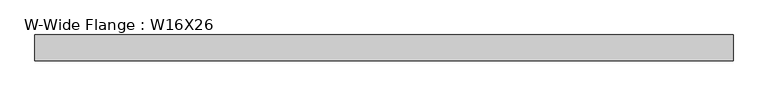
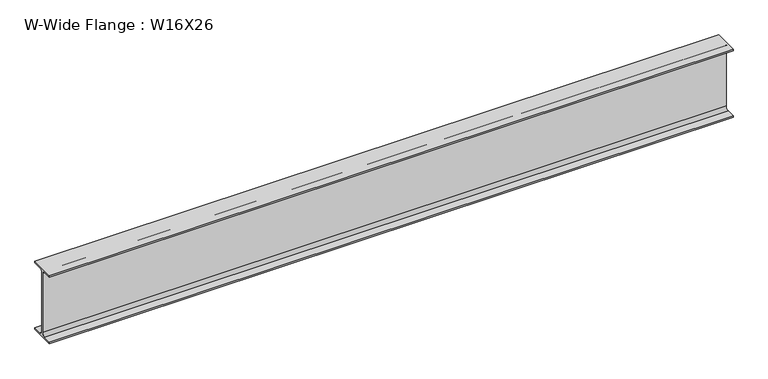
"""IFC4 building model written with IfcOpenShell, lengths in millimetres: beam geometry, W-Wide Flange : W16X26."""

from ifc_helpers import new_model, si_unit, point, frame, frame_2d, origin, place, context, project, spatial, polyline, circle_curve, trimmed, segment, composite_curve, outline, extrude, source, transform, mapped, element, save


def w_wide_flange_w16x26_0532e526(model_context):
    return source(origin(), model_context, "Body", "SweptSolid", [
        extrude(outline(composite_curve([segment(polyline([(69.85, -190.5496094), (69.85, -199.2808594), (-69.85, -199.2808594), (-69.85, -190.5496094), (-21.43125, -190.5496094)]), True, "CONTINUOUS"), segment(trimmed(circle_curve(frame_2d((-21.43125, -172.2933594)), 18.25625), [point((-21.43125, -190.5496094))], [point((-3.175, -172.2933594))], True, "CARTESIAN"), True, "CONTINUOUS"), segment(polyline([(-3.175, -172.2933594), (-3.175, 172.2933594)]), True, "CONTINUOUS"), segment(trimmed(circle_curve(frame_2d((-21.43125, 172.2933594)), 18.25625), [point((-3.175, 172.2933594))], [point((-21.43125, 190.5496094))], True, "CARTESIAN"), True, "CONTINUOUS"), segment(polyline([(-21.43125, 190.5496094), (-69.85, 190.5496094), (-69.85, 199.2808594), (69.85, 199.2808594), (69.85, 190.5496094), (21.43125, 190.5496094)]), True, "CONTINUOUS"), segment(trimmed(circle_curve(frame_2d((21.43125, 172.2933594)), 18.25625), [point((21.43125, 190.5496094))], [point((3.175, 172.2933594))], True, "CARTESIAN"), True, "CONTINUOUS"), segment(polyline([(3.175, 172.2933594), (3.175, -172.2933594)]), True, "CONTINUOUS"), segment(trimmed(circle_curve(frame_2d((21.43125, -172.2933594)), 18.25625), [point((3.175, -172.2933594))], [point((21.43125, -190.5496094))], True, "CARTESIAN"), True, "CONTINUOUS"), segment(polyline([(21.43125, -190.5496094), (69.85, -190.5496094)]), True, "CONTINUOUS")], self_intersect=False)), frame((-1892.3, 0.0, 0.0), z_axis=(1.0, 0.0, 0.0), x_axis=(0.0, 1.0, 0.0)), (0.0, 0.0, 1.0), 3790.95),
    ])


if __name__ == "__main__":
    model = new_model("IFC4")
    model_context = context("Model", 3, world=origin())
    ifc_project = project(units=[si_unit("LENGTHUNIT", "METRE", prefix="MILLI")], contexts=[model_context])
    site = spatial("IfcSite", under=ifc_project)
    building = spatial("IfcBuilding", under=site)
    placement = place(None, origin())
    w_wide_flange_w16x26_shape = w_wide_flange_w16x26_0532e526(model_context)
    element("IfcBeam", 1, ObjectType="W-Wide Flange : W16X26", at=placement, inside=building, context=model_context, shape_type="MappedRepresentation", body=[
        mapped(w_wide_flange_w16x26_shape, transform((0.0, 0.0, 0.0), x_axis=(1.0, 0.0, 0.0), y_axis=(0.0, 1.0, 0.0), z_axis=(0.0, 0.0, 1.0))),
    ])
    save(model, "model.ifc")
